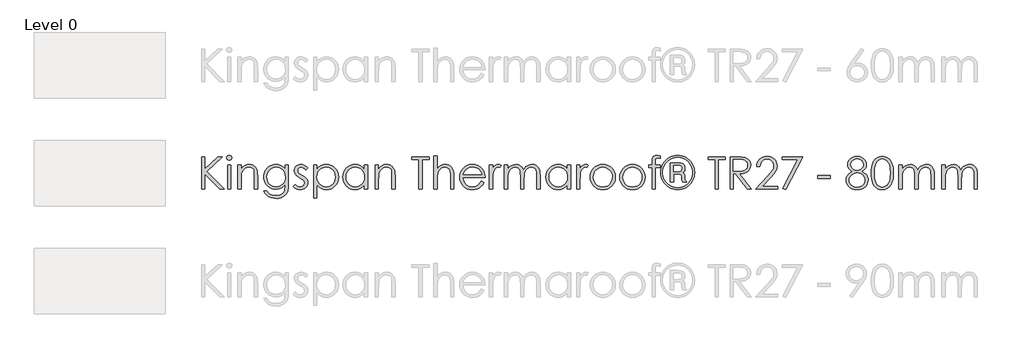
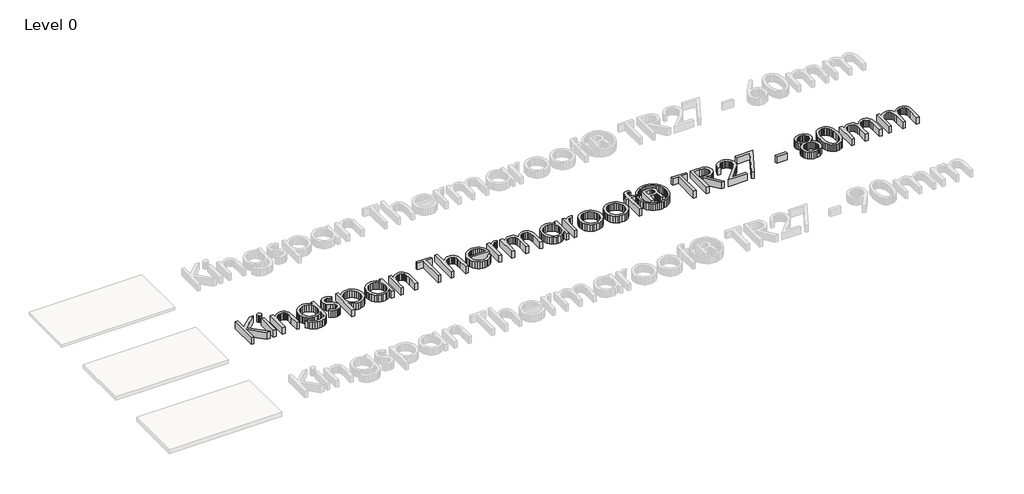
# One storey, part 9 of 12: 1 proxy.
"""IFC4 building model written with IfcOpenShell, lengths in millimetres."""

from ifc_helpers import new_model, si_unit, origin, origin_with_axes, place, context, project, spatial, polyline, outline, extrude, element, save

model = new_model("IFC4")

# Units and contexts
model_context = context("Model", 3, world=origin())
ifc_project = project(units=[si_unit("LENGTHUNIT", "METRE", prefix="MILLI")], contexts=[model_context])

# Site, building, storey
site = spatial("IfcSite", under=ifc_project)
building = spatial("IfcBuilding", under=site)
storey = spatial("IfcBuildingStorey", under=building, Name="Level 0", Elevation=0.0)

# Proxy
placement = place(None, origin())
element("IfcBuildingElementProxy", 1, Name="600mm KI_CenturyGothic", ObjectType="600mm KI_CenturyGothic", at=placement, inside=storey, context=model_context, shape_type="SweptSolid", body=[
    extrude(outline(polyline([(-3852.2663848, -39.1035917), (-3792.944575, -39.1035917), (-3792.944575, -258.3162171), (-3555.1938841, -39.1035917), (-3471.6181051, -39.1035917), (-3760.9664119, -306.0517359), (-3441.9572002, -632.32169), (-3520.8984627, -632.32169), (-3792.944575, -354.0962225), (-3792.944575, -632.32169), (-3852.2663848, -632.32169), (-3852.2663848, -39.1035917)])), origin_with_axes(), (0.0, 0.0, 1.0), 150.0),
    extrude(outline(polyline([(-3348.1854852, -9.4426868), (-3329.145347, -12.7254693), (-3313.1176445, -22.5738166), (-3302.226531, -37.0180594), (-3298.5961598, -54.0885281), (-3302.226531, -70.927271), (-3313.1176445, -85.2942718), (-3329.145347, -95.1426191), (-3348.1854852, -98.4254016), (-3366.9938975, -95.1426191), (-3382.9443581, -85.2942718), (-3393.8354717, -70.927271), (-3397.4658428, -54.0885281), (-3393.8354717, -37.0180594), (-3382.9443581, -22.5738166), (-3366.9938975, -12.7254693), (-3348.1854852, -9.4426868)])), origin_with_axes(), (0.0, 0.0, 1.0), 150.0),
    extrude(outline(polyline([(-3377.6919062, -187.4081163), (-3318.3700964, -187.4081163), (-3318.3700964, -632.32169), (-3377.6919062, -632.32169), (-3377.6919062, -187.4081163)])), origin_with_axes(), (0.0, 0.0, 1.0), 150.0),
    extrude(outline(polyline([(-3189.8395084, -187.4081163), (-3130.5176986, -187.4081163), (-3130.5176986, -266.5038627), (-3096.9946967, -226.9946105), (-3060.0730495, -199.303375), (-3019.7141359, -182.9667048), (-2975.879335, -177.521148), (-2953.4357238, -179.0997801), (-2932.2955704, -183.8356766), (-2912.4588747, -191.7288373), (-2893.9256368, -202.7792623), (-2877.212412, -216.5041895), (-2862.835756, -232.4208568), (-2841.0921499, -270.8294114), (-2833.6238199, -295.2088986), (-2828.2892984, -325.5553258), (-2824.0216812, -404.1489996), (-2824.0216812, -632.32169), (-2883.343491, -632.32169), (-2883.343491, -419.1339359), (-2883.343491, -316.0931881), (-2884.7290183, -295.2957958), (-2889.8125035, -277.2404924), (-2898.2849788, -261.9272778), (-2910.1464442, -249.3561521), (-2924.7403432, -239.556081), (-2941.4101193, -232.5560302), (-2980.977303, -226.9559895), (-3005.3471351, -229.1139362), (-3028.4038541, -235.5877763), (-3050.1474602, -246.3775098), (-3070.5779533, -261.4831366), (-3088.6622225, -279.7653383), (-3103.3671568, -300.0847961), (-3114.6927562, -322.4415101), (-3122.6390208, -346.8354802), (-3128.5480292, -393.9144426), (-3130.5176986, -468.4142936), (-3130.5176986, -632.32169), (-3189.8395084, -632.32169), (-3189.8395084, -187.4081163)])), origin_with_axes(), (0.0, 0.0, 1.0), 150.0),
    extrude(outline(polyline([(-2319.7862977, -187.4081163), (-2260.4644879, -187.4081163), (-2260.4644879, -538.3954911), (-2264.5196897, -618.6498666), (-2269.588692, -649.4500901), (-2276.6852953, -674.0323375), (-2289.9371156, -702.6456486), (-2307.2924139, -727.7734172), (-2328.7511904, -749.4156432), (-2354.3134448, -767.5723267), (-2383.3226209, -781.9344999), (-2415.122162, -792.193195), (-2449.7120682, -798.3484121), (-2487.0923395, -800.4001511), (-2541.0458345, -796.3835703), (-2589.206184, -784.3338276), (-2630.260275, -765.5061048), (-2662.8949946, -741.1555833), (-2690.2000204, -707.8063757), (-2715.2650299, -661.9825949), (-2655.94322, -661.9825949), (-2642.4355358, -683.151714), (-2627.0933555, -701.3952947), (-2609.9166791, -716.7133369), (-2590.9055067, -729.1058406), (-2569.7894914, -738.6693583), (-2546.2982864, -745.5004424), (-2492.1903075, -750.9653096), (-2438.5071593, -745.6356158), (-2415.083541, -738.9734985), (-2393.93856, -729.6465342), (-2359.6624492, -705.6049804), (-2336.8567664, -676.1178699), (-2329.3884364, -657.4784243), (-2324.0539149, -633.7699763), (-2319.7862977, -571.1460736), (-2319.7862977, -548.4369433), (-2354.757586, -584.2192719), (-2396.6420279, -610.6167049), (-2443.392712, -626.8954437), (-2492.9627269, -632.32169), (-2522.4063889, -630.4244348), (-2550.9521133, -624.7326694), (-2578.5999001, -615.2463936), (-2605.3497494, -601.9656076), (-2630.1540674, -585.4744534), (-2651.9652601, -566.3570733), (-2670.7833277, -544.6134672), (-2686.6082702, -520.2436352), (-2699.1456025, -493.9282718), (-2708.1008399, -466.3480717), (-2713.4739824, -437.5030347), (-2715.2650299, -407.3931611), (-2713.3967404, -377.1046654), (-2707.7918722, -347.8782464), (-2698.4504251, -319.7139041), (-2685.3723991, -292.6116384), (-2668.9971079, -267.4259384), (-2649.7638648, -245.011293), (-2627.67267, -225.3677021), (-2602.7235235, -208.4951659), (-2575.9833294, -194.9440331), (-2548.5189922, -185.2646525), (-2520.3305117, -179.4570241), (-2491.4178881, -177.521148), (-2444.5320306, -182.4646321), (-2400.8903346, -197.2950846), (-2359.6045177, -223.8663119), (-2319.7862977, -264.0321207), (-2319.7862977, -187.4081163)]), holes=[polyline([(-2484.1571458, -226.9559895), (-2529.0154023, -232.9808608), (-2570.5908765, -251.0554748), (-2606.2187212, -279.7701659), (-2633.2340897, -317.7152689), (-2650.2659375, -361.9942109), (-2655.94322, -409.7104193), (-2653.0080263, -445.6230937), (-2644.2024452, -478.2819514), (-2629.5264766, -507.6869924), (-2608.9801206, -533.8382166), (-2583.7606272, -555.2969931), (-2555.0652466, -570.6246905), (-2522.8939786, -579.821309), (-2487.2468234, -582.8868485), (-2451.3244937, -579.8454471), (-2419.1001219, -570.7212429), (-2390.573708, -555.514236), (-2365.7452519, -534.2244263), (-2345.6382095, -507.9814773), (-2331.2760363, -477.9150522), (-2322.6587323, -444.025151), (-2319.7862977, -406.3117739), (-2325.0773706, -357.6107308), (-2340.9505892, -314.3938655), (-2366.4983608, -278.1673956), (-2400.8130926, -250.4375392), (-2440.9982119, -232.8263769), (-2484.1571458, -226.9559895)])]), origin_with_axes(), (0.0, 0.0, 1.0), 150.0),
    extrude(outline(polyline([(-1904.5336289, -238.6967644), (-1940.9918246, -276.390831), (-1962.9575012, -254.7630879), (-1984.6721416, -239.3146999), (-2006.1357456, -230.0456671), (-2027.3483133, -226.9559895), (-2052.181597, -231.6291269), (-2073.2300256, -245.648539), (-2087.5970264, -265.8859272), (-2092.3860267, -289.2129931), (-2088.4466878, -310.7634943), (-2076.628671, -331.2326083), (-2052.0657341, -353.4010451), (-2010.2006027, -379.1226111), (-1958.3326401, -411.9890565), (-1939.8428507, -427.8139989), (-1926.315856, -443.2334212), (-1909.9791857, -475.9067617), (-1904.5336289, -512.4421993), (-1906.9474396, -538.5885959), (-1914.1888714, -562.6494602), (-1926.2579245, -584.6247921), (-1943.1545989, -604.5145916), (-1963.6719892, -621.0057458), (-1986.6031901, -632.7851416), (-2011.9482016, -639.8527791), (-2039.7070237, -642.2086583), (-2077.4397114, -638.3272508), (-2113.3958344, -626.6830284), (-2145.4512394, -608.2028942), (-2171.4817731, -583.8137517), (-2135.7959969, -543.3389752), (-2114.0041146, -564.9667184), (-2091.5749863, -580.4151064), (-2068.5086121, -589.6841392), (-2044.8049918, -592.7738168), (-2013.637869, -587.1351551), (-1987.4914724, -570.2191703), (-1969.7644472, -545.6562334), (-1963.8554388, -517.0767157), (-1967.7561567, -493.2861982), (-1979.4583106, -472.2763906), (-2005.0253927, -450.5714054), (-2050.2119275, -423.7684523), (-2099.762632, -393.1034022), (-2117.441381, -377.9446715), (-2130.3890611, -362.9018037), (-2146.3781427, -330.7691567), (-2151.7078365, -294.3109611), (-2149.5305794, -270.2645797), (-2142.9988078, -248.3326964), (-2132.1125219, -228.5153112), (-2116.8717217, -210.8124241), (-2098.309518, -196.2474908), (-2077.4590218, -185.843967), (-2054.3202332, -179.6018527), (-2028.8931521, -177.521148), (-1997.9481, -181.344624), (-1966.9064954, -192.8150521), (-1935.7683384, -211.9324322), (-1904.5336289, -238.6967644)])), origin_with_axes(), (0.0, 0.0, 1.0), 150.0),
    extrude(outline(polyline([(-1795.7769776, -187.4081163), (-1736.4551678, -187.4081163), (-1736.4551678, -268.5121532), (-1700.9238754, -228.2691025), (-1660.4490989, -199.9213106), (-1614.9922173, -183.1211886), (-1564.5146096, -177.521148), (-1520.0618732, -181.7597994), (-1478.9305402, -194.4757538), (-1441.1206107, -215.669011), (-1406.6320845, -245.3395712), (-1377.9077381, -280.9770712), (-1357.3903478, -320.071148), (-1345.0799137, -362.6218017), (-1340.9764356, -408.6290321), (-1345.0412927, -455.5293725), (-1357.235864, -498.7510654), (-1377.5601494, -538.294111), (-1406.014149, -574.1585092), (-1440.2130179, -603.9304494), (-1477.7719111, -625.196121), (-1518.6908288, -637.955524), (-1562.9697708, -642.2086583), (-1612.6170277, -636.743791), (-1658.0545988, -620.3491893), (-1699.3211052, -593.102095), (-1736.4551678, -555.0797501), (-1736.4551678, -790.5131828), (-1795.7769776, -790.5131828), (-1795.7769776, -187.4081163)]), holes=[polyline([(-1568.5311905, -226.9559895), (-1602.5852307, -230.2532548), (-1633.8392507, -240.1450507), (-1662.2932503, -256.6313773), (-1687.9472295, -279.7122344), (-1709.1694525, -307.6979548), (-1724.3281832, -338.8988709), (-1733.4234216, -373.3149827), (-1736.4551678, -410.9462903), (-1731.048232, -459.8018173), (-1714.8274246, -503.4821343), (-1688.5265441, -540.3265396), (-1652.8793888, -568.6743315), (-1611.4390881, -586.7489454), (-1567.7587711, -592.7738168), (-1525.0632888, -586.7103245), (-1485.0326535, -568.5198476), (-1450.2544701, -539.4189468), (-1423.3163435, -500.6241825), (-1406.05277, -455.9590308), (-1400.2982454, -409.2469676), (-1405.9948385, -362.3031787), (-1423.0846177, -317.8697527), (-1449.8103289, -279.5191296), (-1484.414718, -250.8237489), (-1524.7157001, -232.9229294), (-1568.5311905, -226.9559895)])]), origin_with_axes(), (0.0, 0.0, 1.0), 150.0),
    extrude(outline(polyline([(-807.0801472, -187.4081163), (-807.0801472, -632.32169), (-866.401957, -632.32169), (-866.401957, -556.470105), (-903.4780882, -594.3186556), (-944.8797679, -621.0443668), (-990.4525125, -636.9175854), (-1040.0418379, -642.2086583), (-1084.3159523, -637.955524), (-1125.2203871, -625.196121), (-1162.7551422, -603.9304494), (-1196.9202178, -574.1585092), (-1225.340424, -538.294111), (-1245.6405713, -498.7510654), (-1257.8206597, -455.5293725), (-1261.8806892, -408.6290321), (-1257.7820388, -362.6218017), (-1245.4860875, -320.071148), (-1224.9928353, -280.9770712), (-1196.3022822, -245.3395712), (-1161.8475494, -215.669011), (-1124.061758, -194.4757538), (-1082.9449079, -181.7597994), (-1038.4969991, -177.521148), (-987.7490446, -183.1211886), (-942.0990581, -199.9213106), (-921.2051134, -212.6082992), (-901.6242816, -228.2691025), (-866.401957, -268.5121532), (-866.401957, -187.4081163), (-807.0801472, -187.4081163)]), holes=[polyline([(-1034.3259343, -226.9559895), (-1078.1414247, -232.9229294), (-1118.4424068, -250.8237489), (-1153.0467959, -279.5191296), (-1179.7725071, -317.8697527), (-1196.8622863, -362.3031787), (-1202.5588794, -409.2469676), (-1196.8043548, -455.9590308), (-1179.5407813, -500.6241825), (-1152.6026548, -539.4189468), (-1117.8244713, -568.5198476), (-1077.6779731, -586.7103245), (-1034.6349021, -592.7738168), (-991.0125165, -586.7489454), (-949.7460102, -568.6743315), (-914.2726493, -540.3265396), (-888.0297002, -503.4821343), (-871.8088928, -459.8018173), (-866.401957, -410.9462903), (-869.4337032, -373.3149827), (-878.5289416, -338.8988709), (-893.6876723, -307.6979548), (-914.9098953, -279.7122344), (-940.5638746, -256.6313773), (-969.0178742, -240.1450507), (-1000.2718941, -230.2532548), (-1034.3259343, -226.9559895)])]), origin_with_axes(), (0.0, 0.0, 1.0), 150.0),
    extrude(outline(polyline([(-668.662591, -187.4081163), (-609.3407811, -187.4081163), (-609.3407811, -266.5038627), (-575.8177792, -226.9946105), (-538.896132, -199.303375), (-498.5372184, -182.9667048), (-454.7024175, -177.521148), (-432.2588064, -179.0997801), (-411.1186529, -183.8356766), (-391.2819572, -191.7288373), (-372.7487193, -202.7792623), (-356.0354946, -216.5041895), (-341.6588385, -232.4208568), (-319.9152324, -270.8294114), (-312.4469024, -295.2088986), (-307.1123809, -325.5553258), (-302.8447637, -404.1489996), (-302.8447637, -632.32169), (-362.1665735, -632.32169), (-362.1665735, -419.1339359), (-362.1665735, -316.0931881), (-363.5521008, -295.2957958), (-368.635586, -277.2404924), (-377.1080613, -261.9272778), (-388.9695267, -249.3561521), (-403.5634257, -239.556081), (-420.2332018, -232.5560302), (-459.8003855, -226.9559895), (-484.1702176, -229.1139362), (-507.2269366, -235.5877763), (-528.9705427, -246.3775098), (-549.4010358, -261.4831366), (-567.485305, -279.7653383), (-582.1902393, -300.0847961), (-593.5158387, -322.4415101), (-601.4621033, -346.8354802), (-607.3711117, -393.9144426), (-609.3407811, -468.4142936), (-609.3407811, -632.32169), (-668.662591, -632.32169), (-668.662591, -187.4081163)])), origin_with_axes(), (0.0, 0.0, 1.0), 150.0),
    extrude(outline(polyline([(3.6512537, -88.5384333), (3.6512537, -39.1035917), (320.0342394, -39.1035917), (320.0342394, -88.5384333), (191.5036515, -88.5384333), (191.5036515, -632.32169), (132.1818417, -632.32169), (132.1818417, -88.5384333), (3.6512537, -88.5384333)])), origin_with_axes(), (0.0, 0.0, 1.0), 150.0),
    extrude(outline(polyline([(409.0169542, -19.3296551), (468.338764, -19.3296551), (468.338764, -268.0487015), (502.1128022, -228.3463444), (539.1696229, -200.0757944), (579.470605, -183.1598096), (622.9771276, -177.521148), (645.4207388, -179.0997801), (666.5608922, -183.8356766), (686.3975879, -191.7288373), (704.9308258, -202.7792623), (721.6440506, -216.4897067), (736.0207066, -232.3629253), (757.7643127, -270.5976855), (765.2326428, -294.9047585), (770.5671642, -325.2656685), (774.8347814, -404.1489996), (774.8347814, -632.32169), (715.5129716, -632.32169), (715.5129716, -419.1339359), (714.1226167, -354.752779), (709.9515519, -316.0931881), (696.4342124, -277.2404924), (686.7210385, -261.9272778), (675.0381951, -249.3561521), (661.3953375, -239.556081), (645.8021209, -232.5560302), (608.7646107, -226.9559895), (585.8961689, -229.1139362), (564.2539428, -235.5877763), (543.8379326, -246.3775098), (524.6481382, -261.4831366), (507.659739, -279.7653383), (493.8479146, -300.0847961), (483.212665, -322.4415101), (475.7539902, -346.8354802), (470.1925705, -393.6827167), (468.338764, -468.4142936), (468.338764, -632.32169), (409.0169542, -632.32169), (409.0169542, -19.3296551)])), origin_with_axes(), (0.0, 0.0, 1.0), 150.0),
    extrude(outline(polyline([(1280.6150037, -484.0171654), (1328.5050064, -509.1980378), (1302.8799929, -551.0824797), (1273.5859872, -584.0454776), (1240.5071264, -609.1297975), (1203.5275477, -627.3782058), (1162.048626, -638.5010452), (1115.4717363, -642.2086583), (1063.9803281, -637.776902), (1018.4172388, -624.4816331), (978.7824684, -602.3228516), (945.0760169, -571.3005575), (918.1765113, -534.6975332), (898.9625788, -495.7965612), (887.4342193, -454.5976416), (883.5914328, -411.1007742), (886.8742152, -370.2204775), (896.7225625, -331.618818), (913.1364748, -295.2957958), (936.1159519, -261.2514108), (972.3038007, -224.6194208), (1014.1303111, -198.4537137), (1061.5954832, -182.7542894), (1114.6993169, -177.521148), (1169.3479893, -182.8894628), (1218.2035163, -198.9944073), (1261.2658978, -225.8359814), (1298.5351338, -263.4141851), (1320.008393, -295.5854531), (1335.456781, -331.5415761), (1344.8802977, -371.2825542), (1348.278943, -414.8083873), (942.9132426, -414.8083873), (946.6498214, -452.0631404), (956.1602353, -485.8130405), (971.4444841, -516.0580876), (992.502568, -542.7982817), (1017.86689, -564.6625783), (1046.0698533, -580.279933), (1077.1114579, -589.6503458), (1110.9917037, -592.7738168), (1144.5147056, -589.7613811), (1177.1108043, -580.7240741), (1206.8489511, -566.6853516), (1231.7980977, -548.6686691), (1255.2796474, -522.502962), (1280.6150037, -484.0171654)]), holes=[polyline([(1288.9571332, -365.3735458), (1274.5322009, -322.8518579), (1254.7389538, -289.8309286), (1228.6311782, -264.3024674), (1195.2626601, -244.258184), (1157.3175572, -231.2815381), (1117.4800267, -226.9559895), (1085.0577224, -229.6691127), (1054.9912973, -237.8084821), (1027.2807514, -251.3740978), (1001.9260846, -270.3659597), (985.3866543, -288.1798821), (970.9906877, -309.9524539), (958.738185, -335.6836751), (948.6291461, -365.3735458), (1288.9571332, -365.3735458)])]), origin_with_axes(), (0.0, 0.0, 1.0), 150.0),
    extrude(outline(polyline([(1427.3746895, -187.4081163), (1486.6964993, -187.4081163), (1486.6964993, -251.8278942), (1512.2442709, -218.7876544), (1539.1437765, -195.6730039), (1567.317774, -182.059112), (1596.6890217, -177.521148), (1620.0160875, -181.306003), (1644.8879922, -192.6605682), (1615.3815711, -234.6801835), (1586.8020534, -226.9559895), (1560.3853099, -232.9036189), (1534.8954698, -250.746507), (1512.8428959, -281.1025894), (1496.7379515, -324.5898015), (1489.2068623, -382.7143613), (1486.6964993, -480.1550684), (1486.6964993, -632.32169), (1427.3746895, -632.32169), (1427.3746895, -187.4081163)])), origin_with_axes(), (0.0, 0.0, 1.0), 150.0),
    extrude(outline(polyline([(1704.209802, -187.4081163), (1763.5316118, -187.4081163), (1763.5316118, -263.568669), (1793.1152748, -227.0718524), (1823.4713571, -201.929601), (1866.8813274, -183.6232612), (1912.4540719, -177.521148), (1943.2929164, -180.668757), (1972.4710592, -190.1115842), (1998.2312461, -204.7875528), (2018.8162231, -223.6345861), (2035.5970345, -249.0664948), (2049.9447249, -283.4970895), (2064.7220735, -259.0982917), (2081.247021, -237.8084821), (2099.5195674, -219.6276605), (2119.5397127, -204.5558269), (2140.83435, -192.7281549), (2162.9303724, -184.2798177), (2185.82778, -179.2108154), (2209.5265726, -177.521148), (2251.8551557, -183.333604), (2271.0497777, -190.5991739), (2288.9312868, -200.7709719), (2305.0458865, -213.5400301), (2318.9397805, -228.5973807), (2340.065451, -265.5769595), (2347.3648143, -288.9523015), (2352.5786453, -317.522164), (2356.74971, -390.2454504), (2356.74971, -632.32169), (2297.4279002, -632.32169), (2297.4279002, -386.6923212), (2294.9754686, -325.5746362), (2287.6181738, -287.1274607), (2274.3132497, -262.6610762), (2254.01793, -243.4857646), (2227.9487753, -231.0884333), (2197.3223461, -226.9559895), (2177.6739277, -228.5056559), (2158.894481, -233.1546552), (2123.9425033, -251.7506522), (2095.2085016, -280.6970692), (2075.434565, -317.9469947), (2068.743482, -342.1044114), (2063.9641369, -373.1749817), (2060.1406609, -456.0555832), (2060.1406609, -632.32169), (2000.8188511, -632.32169), (2000.8188511, -401.9862253), (1998.4050405, -333.5305561), (1991.1636086, -291.2985254), (1977.9166159, -265.0555764), (1957.4861228, -244.5671518), (1931.1659318, -231.3587801), (1900.2498454, -226.9559895), (1863.3088876, -233.0001713), (1828.801051, -251.1327167), (1799.8353235, -279.4998191), (1779.5206934, -316.247672), (1767.5288822, -368.0770137), (1763.5316118, -441.6885824), (1763.5316118, -632.32169), (1704.209802, -632.32169), (1704.209802, -187.4081163)])), origin_with_axes(), (0.0, 0.0, 1.0), 150.0),
    extrude(outline(polyline([(2920.3069034, -187.4081163), (2920.3069034, -632.32169), (2860.9850935, -632.32169), (2860.9850935, -556.470105), (2823.9089624, -594.3186556), (2782.5072826, -621.0443668), (2736.9345381, -636.9175854), (2687.3452127, -642.2086583), (2643.0710983, -637.955524), (2602.1666635, -625.196121), (2564.6319083, -603.9304494), (2530.4668328, -574.1585092), (2502.0466266, -538.294111), (2481.7464792, -498.7510654), (2469.5663908, -455.5293725), (2465.5063614, -408.6290321), (2469.6050118, -362.6218017), (2481.9009631, -320.071148), (2502.3942153, -280.9770712), (2531.0847683, -245.3395712), (2565.5395011, -215.669011), (2603.3252926, -194.4757538), (2644.4421427, -181.7597994), (2688.8900515, -177.521148), (2739.638006, -183.1211886), (2785.2879925, -199.9213106), (2806.1819372, -212.6082992), (2825.7627689, -228.2691025), (2860.9850935, -268.5121532), (2860.9850935, -187.4081163), (2920.3069034, -187.4081163)]), holes=[polyline([(2693.0611162, -226.9559895), (2649.2456259, -232.9229294), (2608.9446437, -250.8237489), (2574.3402547, -279.5191296), (2547.6145435, -317.8697527), (2530.5247643, -362.3031787), (2524.8281712, -409.2469676), (2530.5826957, -455.9590308), (2547.8462693, -500.6241825), (2574.7843958, -539.4189468), (2609.5625792, -568.5198476), (2649.7090775, -586.7103245), (2692.7521485, -592.7738168), (2736.374534, -586.7489454), (2777.6410404, -568.6743315), (2813.1144013, -540.3265396), (2839.3573504, -503.4821343), (2855.5781577, -459.8018173), (2860.9850935, -410.9462903), (2857.9533474, -373.3149827), (2848.858109, -338.8988709), (2833.6993783, -307.6979548), (2812.4771553, -279.7122344), (2786.823176, -256.6313773), (2758.3691764, -240.1450507), (2727.1151565, -230.2532548), (2693.0611162, -226.9559895)])]), origin_with_axes(), (0.0, 0.0, 1.0), 150.0),
    extrude(outline(polyline([(3029.0635547, -187.4081163), (3088.3853645, -187.4081163), (3088.3853645, -251.8278942), (3113.9331361, -218.7876544), (3140.8326417, -195.6730039), (3169.0066393, -182.059112), (3198.3778869, -177.521148), (3221.7049527, -181.306003), (3246.5768574, -192.6605682), (3217.0704364, -234.6801835), (3188.4909186, -226.9559895), (3162.0741752, -232.9036189), (3136.584335, -250.746507), (3114.5317612, -281.1025894), (3098.4268167, -324.5898015), (3090.8957276, -382.7143613), (3088.3853645, -480.1550684), (3088.3853645, -632.32169), (3029.0635547, -632.32169), (3029.0635547, -187.4081163)])), origin_with_axes(), (0.0, 0.0, 1.0), 150.0),
    extrude(outline(polyline([(3508.7360013, -177.521148), (3558.0453247, -182.1460091), (3602.932547, -196.0205926), (3643.3976682, -219.1448983), (3679.4406884, -251.5189264), (3706.340194, -286.7509062), (3725.5541265, -325.0918741), (3737.0824861, -366.5418301), (3740.9252726, -411.1007742), (3736.8604155, -455.9155822), (3724.6658442, -497.8241622), (3704.3415588, -536.8265142), (3675.8875592, -572.9226382), (3641.0514443, -603.235272), (3601.580813, -624.8871533), (3557.4756654, -637.878282), (3508.7360013, -642.2086583), (3459.8611639, -637.878282), (3415.6594638, -624.8871533), (3376.130901, -603.235272), (3341.2754757, -572.9226382), (3312.8214761, -536.8265142), (3292.4971906, -497.8241622), (3280.3026194, -455.9155822), (3276.2377623, -411.1007742), (3280.0805488, -366.734935), (3291.6089083, -325.4008419), (3310.8228409, -287.0984949), (3337.7223464, -251.8278942), (3373.7846771, -219.3186927), (3414.3077298, -196.0978345), (3459.2915046, -182.1653196), (3508.7360013, -177.521148)]), holes=[polyline([(3508.5815174, -226.9559895), (3474.3054066, -230.3304968), (3442.5396588, -240.4540185), (3413.2842741, -257.3265547), (3386.5392524, -280.9481055), (3364.2356423, -309.3586565), (3348.3044922, -340.5981936), (3338.7458021, -374.6667167), (3335.5595721, -411.5642258), (3341.3720281, -459.2997447), (3358.809396, -503.6366181), (3386.1530427, -541.4272372), (3421.6843351, -569.5239929), (3463.2211882, -586.9613608), (3508.5815174, -592.7738168), (3553.9418466, -586.9613608), (3595.4786998, -569.5239929), (3631.0099921, -541.4272372), (3658.3536389, -503.6366181), (3675.7910068, -459.2997447), (3681.6034628, -411.5642258), (3678.4027499, -374.6667167), (3668.8006112, -340.5981936), (3652.7970468, -309.3586565), (3630.3920566, -280.9481055), (3603.5746206, -257.3265547), (3574.3337188, -240.4540185), (3542.669351, -230.3304968), (3508.5815174, -226.9559895)])]), origin_with_axes(), (0.0, 0.0, 1.0), 150.0),
    extrude(outline(polyline([(4052.519258, -177.521148), (4101.8285814, -182.1460091), (4146.7158037, -196.0205926), (4187.180925, -219.1448983), (4223.2239452, -251.5189264), (4250.1234507, -286.7509062), (4269.3373833, -325.0918741), (4280.8657428, -366.5418301), (4284.7085293, -411.1007742), (4280.6436722, -455.9155822), (4268.4491009, -497.8241622), (4248.1248155, -536.8265142), (4219.6708159, -572.9226382), (4184.834701, -603.235272), (4145.3640698, -624.8871533), (4101.2589221, -637.878282), (4052.519258, -642.2086583), (4003.6444206, -637.878282), (3959.4427205, -624.8871533), (3919.9141578, -603.235272), (3885.0587324, -572.9226382), (3856.6047328, -536.8265142), (3836.2804474, -497.8241622), (3824.0858761, -455.9155822), (3820.021019, -411.1007742), (3823.8638055, -366.734935), (3835.392165, -325.4008419), (3854.6060976, -287.0984949), (3881.5056031, -251.8278942), (3917.5679338, -219.3186927), (3958.0909865, -196.0978345), (4003.0747613, -182.1653196), (4052.519258, -177.521148)]), holes=[polyline([(4052.3647741, -226.9559895), (4018.0886633, -230.3304968), (3986.3229156, -240.4540185), (3957.0675308, -257.3265547), (3930.3225091, -280.9481055), (3908.018899, -309.3586565), (3892.0877489, -340.5981936), (3882.5290589, -374.6667167), (3879.3428288, -411.5642258), (3885.1552848, -459.2997447), (3902.5926527, -503.6366181), (3929.9362994, -541.4272372), (3965.4675918, -569.5239929), (4007.004445, -586.9613608), (4052.3647741, -592.7738168), (4097.7251033, -586.9613608), (4139.2619565, -569.5239929), (4174.7932489, -541.4272372), (4202.1368956, -503.6366181), (4219.5742635, -459.2997447), (4225.3867195, -411.5642258), (4222.1860066, -374.6667167), (4212.5838679, -340.5981936), (4196.5803035, -309.3586565), (4174.1753133, -280.9481055), (4147.3578773, -257.3265547), (4118.1169755, -240.4540185), (4086.4526077, -230.3304968), (4052.3647741, -226.9559895)])]), origin_with_axes(), (0.0, 0.0, 1.0), 150.0),
    extrude(outline(polyline([(4561.5436418, -20.72001), (4561.5436418, -72.3176259), (4535.2813822, -62.2375527), (4513.0357036, -58.8775283), (4499.3059487, -60.5575405), (4488.086557, -65.5975771), (4479.9761533, -72.8196985), (4475.5733627, -81.0459651), (4473.0243787, -127.6228548), (4473.0243787, -187.4081163), (4561.5436418, -187.4081163), (4561.5436418, -236.8429578), (4472.8698948, -236.8429578), (4472.8698948, -632.32169), (4413.2391172, -632.32169), (4413.2391172, -236.8429578), (4353.9173074, -236.8429578), (4353.9173074, -187.4081163), (4413.2391172, -187.4081163), (4413.2391172, -119.8986608), (4415.3246496, -80.0611304), (4421.5812467, -53.5478345), (4432.8392595, -35.6277044), (4449.9290387, -21.5696714), (4472.000923, -12.474433), (4498.2052511, -9.4426868), (4527.2482205, -12.2620176), (4561.5436418, -20.72001)])), origin_with_axes(), (0.0, 0.0, 1.0), 150.0),
    extrude(outline(polyline([(5194.3096132, -325.207737), (5191.7075254, -367.1501104), (5183.9012619, -407.5476449), (5170.8908226, -446.4003407), (5152.6762077, -483.7081977), (5129.9284564, -518.3463801), (5103.3186081, -549.1900522), (5072.8466628, -576.239214), (5038.5126205, -599.4938655), (5001.5958009, -618.1815874), (4963.3755235, -631.5299601), (4923.8517884, -639.5389837), (4883.0245956, -642.2086583), (4842.2649894, -639.5534666), (4802.7895305, -631.5878915), (4764.5982189, -618.3119331), (4727.6910545, -599.7255913), (4693.3425293, -576.557837), (4662.8271355, -549.5376409), (4636.1448729, -518.6650031), (4613.2957415, -483.9399235), (4594.9797465, -446.6368941), (4581.896893, -408.0304071), (4574.0471808, -368.1204623), (4571.4306101, -326.9070597), (4574.0471808, -285.2398608), (4581.896893, -244.89543), (4594.9797465, -205.8737675), (4613.2957415, -168.1748733), (4636.13039, -133.1215154), (4662.769204, -102.0364623), (4693.2121836, -74.9197137), (4727.4593286, -51.7712699), (4764.2940787, -33.2525148), (4802.4998732, -20.0248326), (4842.0767122, -12.0882233), (4883.0245956, -9.4426868), (4923.9531684, -12.0737404), (4963.4720759, -19.9669011), (5001.581318, -33.122169), (5038.2808947, -51.5395441), (5072.4025216, -74.5866079), (5102.7779145, -101.6309421), (5129.4070733, -132.6725467), (5152.289998, -167.7114216), (5170.6735796, -205.333074), (5183.8047094, -244.1230107), (5191.6833873, -284.0812317), (5194.3096132, -325.207737)]), holes=[polyline([(5154.76174, -325.8256726), (5152.4782752, -289.6812723), (5145.6278806, -254.6279145), (5134.2105564, -220.665599), (5118.2263025, -187.794326), (5098.3220201, -157.1920349), (5075.1446105, -130.0366655), (5048.6940737, -106.3282175), (5018.9704097, -86.0666912), (4987.0115571, -69.8458838), (4953.8554544, -58.2595928), (4919.5021017, -51.3078182), (4883.9514988, -48.99056), (4848.1353768, -51.3078182), (4813.4489182, -58.2595928), (4779.892123, -69.8458838), (4747.4649911, -86.0666912), (4717.3116688, -106.3282175), (4690.5763024, -130.0366655), (4667.2588918, -157.1920349), (4647.359437, -187.794326), (4631.4427698, -220.7138752), (4620.0737217, -254.8210193), (4613.2522929, -290.1157582), (4610.9784833, -326.598092), (4613.2522929, -362.9066313), (4620.0737217, -397.9889549), (4631.4427698, -431.8450627), (4647.359437, -464.4749546), (4667.268547, -494.8068989), (4690.6149233, -521.7691635), (4717.398566, -545.3617485), (4747.619475, -565.5846539), (4780.0948831, -581.8054613), (4813.6420231, -593.3917523), (4848.260895, -600.3435269), (4883.9514988, -602.6607851), (4919.3234797, -600.329044), (4953.6044181, -593.3338208), (4986.7943142, -581.6751155), (5018.8931678, -565.3529281), (5048.7761433, -545.0431255), (5075.3184049, -521.4215748), (5098.5199526, -494.4882759), (5118.3807864, -464.2432288), (5134.2974536, -431.6664407), (5145.6665016, -397.7379186), (5152.4879304, -362.4576625), (5154.76174, -325.8256726)])]), origin_with_axes(), (0.0, 0.0, 1.0), 150.0),
    extrude(outline(polyline([(4749.3960396, -147.8602431), (4893.5294994, -147.8602431), (4936.9587801, -150.4671586), (4966.2141648, -158.287905), (4986.3356901, -172.0176598), (5002.3633927, -192.3516004), (5012.848986, -217.9573035), (5016.3441838, -247.5023455), (5014.722103, -272.7990808), (5009.8558608, -294.3109611), (4997.0336988, -309.5662442), (4974.6335362, -326.2891242), (4995.2957552, -338.9761128), (5007.8475704, -353.555529), (5014.2200304, -374.661889), (5016.3441838, -406.9297094), (5016.3441838, -447.0955182), (5021.4035308, -473.04881), (5036.581572, -494.3675854), (5046.0050887, -503.791102), (4976.7963106, -503.791102), (4967.7590036, -479.6529958), (4961.9658581, -451.4210668), (4957.022374, -407.8566127), (4954.4540795, -387.3295672), (4949.8388735, -373.9474011), (4942.9836514, -365.5087192), (4933.6953081, -359.8121261), (4918.0151943, -356.5679646), (4891.9846606, -355.4865775), (4808.7178494, -355.4865775), (4808.7178494, -503.791102), (4749.3960396, -503.791102), (4749.3960396, -147.8602431)]), holes=[polyline([(4808.7178494, -197.2950846), (4808.7178494, -306.0517359), (4888.5860152, -306.0517359), (4919.1738234, -303.7344777), (4938.0208567, -296.7827032), (4946.3340205, -288.89437), (4952.2719947, -278.6694683), (4957.022374, -251.2099586), (4953.6044181, -226.9946105), (4943.3505506, -210.2717305), (4923.6345454, -200.5392461), (4891.8301767, -197.2950846), (4808.7178494, -197.2950846)])]), origin_with_axes(), (0.0, 0.0, 1.0), 150.0),
    extrude(outline(polyline([(5441.4838208, -88.5384333), (5441.4838208, -39.1035917), (5757.8668066, -39.1035917), (5757.8668066, -88.5384333), (5629.3362186, -88.5384333), (5629.3362186, -632.32169), (5570.0144088, -632.32169), (5570.0144088, -88.5384333), (5441.4838208, -88.5384333)])), origin_with_axes(), (0.0, 0.0, 1.0), 150.0),
    extrude(outline(polyline([(5846.8495213, -39.1035917), (5966.5745281, -39.1035917), (6050.4206538, -41.0346402), (6102.0568906, -46.8277857), (6127.5370756, -54.3637025), (6150.5262079, -65.2306779), (6171.0242877, -79.428712), (6189.0313149, -96.9578047), (6203.6976283, -117.257952), (6214.1735664, -139.7691499), (6220.4591292, -164.4913983), (6222.5543169, -191.4246972), (6216.7804818, -235.2788085), (6209.5631881, -255.105849), (6199.4589768, -273.5328793), (6186.6754358, -290.1736897), (6171.4201527, -304.6420705), (6133.4943602, -327.0615436), (6110.0176381, -334.9981529), (6082.4567484, -340.7333669), (6015.0824664, -345.5996092), (6232.4412852, -632.32169), (6160.4517972, -632.32169), (5943.0929784, -345.5996092), (5906.1713311, -345.5996092), (5906.1713311, -632.32169), (5846.8495213, -632.32169), (5846.8495213, -39.1035917)]), holes=[polyline([(5906.1713311, -88.5384333), (5906.1713311, -296.1647676), (6011.0658855, -296.7827032), (6064.1310982, -293.8861304), (6101.2844713, -285.1964122), (6127.276384, -270.1149234), (6146.8572158, -248.0430391), (6159.1386842, -220.9890497), (6163.232507, -190.9612455), (6159.0807528, -161.7444818), (6146.62549, -135.2698069), (6127.4308679, -113.7386161), (6103.0610359, -99.3523048), (6067.2014653, -91.2419012), (6013.5376276, -88.5384333), (5906.1713311, -88.5384333)])]), origin_with_axes(), (0.0, 0.0, 1.0), 150.0),
    extrude(outline(polyline([(6390.632778, -217.0690212), (6331.3109682, -217.0690212), (6335.7958283, -177.8108053), (6346.9331505, -142.2215815), (6364.7229348, -110.3013498), (6389.1651812, -82.0501103), (6418.5605669, -58.9354598), (6451.2097694, -42.4249952), (6487.1127885, -32.5187164), (6526.2696244, -29.2166234), (6564.7409381, -32.5138887), (6599.35981, -42.4056847), (6630.1262402, -58.8920112), (6657.0402286, -81.9728684), (6678.9045253, -109.533758), (6694.52188, -139.4601821), (6703.8922928, -171.7521406), (6707.0157637, -206.4096335), (6700.932961, -255.207229), (6682.6845527, -300.876526), (6646.902224, -352.7637991), (6588.2176602, -420.2153231), (6435.4331031, -582.8868485), (6716.902732, -582.8868485), (6716.902732, -632.32169), (6311.5370316, -632.32169), (6537.5469477, -391.6358053), (6594.2811525, -326.1153298), (6626.993114, -280.0212022), (6642.5187439, -242.6554138), (6647.6939539, -203.3199559), (6645.4442824, -178.7135704), (6638.6952679, -155.8740943), (6627.4469104, -134.8015276), (6611.6992099, -115.4958703), (6592.6880375, -99.3764429), (6571.6492641, -87.8625663), (6548.5828898, -80.9542403), (6523.4889146, -78.651465), (6497.1542407, -80.9252746), (6473.1464803, -87.7467034), (6451.4656333, -99.1157514), (6432.1116997, -115.0324186), (6415.8764095, -135.0525639), (6403.5514925, -158.7320461), (6395.1369486, -186.0708652), (6390.632778, -217.0690212)])), origin_with_axes(), (0.0, 0.0, 1.0), 150.0),
    extrude(outline(polyline([(6805.8854468, -39.1035917), (7181.5902423, -39.1035917), (6865.2072566, -642.2086583), (6811.2923826, -619.8084957), (7089.9813016, -88.5384333), (6805.8854468, -88.5384333), (6805.8854468, -39.1035917)])), origin_with_axes(), (0.0, 0.0, 1.0), 150.0),
    extrude(outline(polyline([(7458.4253548, -385.1474824), (7685.8256258, -385.1474824), (7685.8256258, -434.5823239), (7458.4253548, -434.5823239), (7458.4253548, -385.1474824)])), origin_with_axes(), (0.0, 0.0, 1.0), 150.0),
    extrude(outline(polyline([(8263.1318844, -308.2145103), (8315.2315729, -339.6133588), (8335.0537857, -356.8479667), (8350.7242443, -375.1060302), (8362.619503, -394.5227228), (8371.1161164, -415.233218), (8376.2140844, -437.2375156), (8377.9134071, -460.5356157), (8375.0940763, -493.2186115), (8366.6360839, -523.9126274), (8352.5394299, -552.6176633), (8332.8041142, -579.3337192), (8302.1100984, -606.8415051), (8265.4877636, -626.4899235), (8222.93711, -638.2789746), (8174.4581375, -642.2086583), (8127.7943505, -638.7569091), (8087.1361244, -628.4016615), (8052.4834592, -611.1429156), (8023.8363547, -586.9806713), (8001.3975712, -558.6666727), (7985.3698687, -528.9526639), (7975.7532471, -497.838645), (7972.5477066, -465.324616), (7974.2615122, -441.5968576), (7979.4029288, -419.0760045), (7987.9719565, -397.7620567), (7999.9685953, -377.6550142), (8015.865952, -358.6872903), (8036.1371336, -340.7912984), (8060.7821401, -323.9670384), (8089.8009714, -308.2145103), (8051.4310377, -283.2653637), (8024.0680805, -252.9092813), (8007.6734788, -218.652481), (8002.2086116, -182.0011805), (8008.001757, -144.2878034), (8025.3811935, -107.4627085), (8052.995187, -74.9438518), (8089.4920036, -50.1491891), (8132.0909335, -34.4497649), (8178.0112667, -29.2166234), (8222.7536604, -34.4883858), (8263.9815458, -50.303673), (8299.1845599, -75.1755777), (8325.8523396, -107.6171924), (8342.6524615, -144.751255), (8348.2525022, -183.7005032), (8342.9421188, -221.240086), (8327.0109687, -254.4541201), (8300.4204309, -283.4198476), (8263.1318844, -308.2145103)]), holes=[polyline([(8175.076073, -78.651465), (8151.5703852, -80.5100991), (8130.1791954, -86.0860017), (8110.9025038, -95.3791726), (8093.7403103, -108.3896118), (8079.6484839, -123.9780008), (8069.5828936, -141.0050209), (8063.5435394, -159.4706722), (8061.5304214, -179.3749546), (8063.6980233, -199.2840646), (8070.2008291, -218.2276503), (8081.0388388, -236.2057118), (8096.2120524, -253.2182491), (8114.2721834, -267.6818023), (8133.7709456, -278.0129118), (8154.708339, -284.2115774), (8177.0843634, -286.2777993), (8205.7990546, -282.5315653), (8232.930286, -271.292863), (8256.3925252, -253.5465273), (8274.1002399, -230.2773929), (8285.2230793, -204.2275487), (8288.9306924, -178.1390835), (8287.1058515, -159.9679172), (8281.631329, -142.5305492), (8272.5071249, -125.8269797), (8259.7332391, -109.8572087), (8243.4931212, -96.2046958), (8223.9702209, -86.4529009), (8201.1645382, -80.6018239), (8175.076073, -78.651465)]), polyline([(8178.3202345, -335.7126409), (8148.4517418, -338.2230039), (8121.1032675, -345.754093), (8096.2748115, -358.3059083), (8073.9663737, -375.8784496), (8055.5489987, -396.7820496), (8042.3937308, -419.3270408), (8034.50057, -443.5134232), (8031.8695165, -469.3411968), (8036.3688595, -501.4545333), (8049.8668885, -531.6754423), (8071.4367002, -557.6094236), (8100.1513913, -576.8619771), (8135.0261272, -588.7958569), (8175.076073, -592.7738168), (8206.2962996, -590.3551785), (8234.1468465, -583.0992638), (8258.6277138, -571.0060726), (8279.7389015, -554.0756049), (8296.7369559, -533.910631), (8308.8784233, -512.113921), (8316.1633038, -488.6854752), (8318.5915973, -463.6252933), (8316.0233028, -439.2940822), (8308.3184193, -416.3532261), (8295.4769468, -394.8027249), (8277.4988853, -374.6425786), (8255.8904526, -357.6107308), (8232.1578666, -345.4451253), (8206.3011272, -338.145762), (8178.3202345, -335.7126409)])]), origin_with_axes(), (0.0, 0.0, 1.0), 150.0),
    extrude(outline(polyline([(8437.2352169, -335.8671247), (8438.8138491, -281.4356952), (8443.5497455, -233.5408649), (8451.4429062, -192.1826337), (8462.4933313, -157.3610017), (8476.4210185, -127.7194073), (8492.9459661, -101.9012889), (8512.0681738, -79.9066465), (8533.7876418, -61.7354801), (8557.4816068, -47.5084803), (8582.5273058, -37.3463376), (8608.9247388, -31.249052), (8636.6739057, -29.2166234), (8664.876869, -31.2635348), (8691.7087878, -37.4042691), (8717.1696623, -47.6388261), (8741.2594923, -61.9672059), (8763.4424119, -80.384581), (8783.1825551, -102.8861236), (8800.479922, -129.4718338), (8815.3345126, -160.1417115), (8827.2635647, -195.658521), (8835.7843162, -236.7850264), (8840.8967671, -283.5212276), (8842.6009174, -335.8671247), (8840.9209052, -388.0537104), (8835.8808686, -434.6209449), (8827.4808077, -475.5688282), (8815.7207223, -510.8973605), (8801.0109604, -541.4224096), (8783.7618697, -567.9598436), (8763.9734502, -590.5096624), (8741.645702, -609.0718661), (8717.3869052, -623.5692127), (8691.8053403, -633.9244602), (8664.9010071, -640.1376088), (8636.6739057, -642.2086583), (8608.9488769, -640.2003678), (8582.6238583, -634.1754965), (8557.6988498, -624.1340443), (8534.1738515, -610.0760113), (8512.5992121, -592.0400183), (8493.5252806, -570.0646864), (8476.9520569, -544.1500156), (8462.879541, -514.2960058), (8451.6601492, -479.2764414), (8443.6462979, -437.8651063), (8438.8379872, -390.0620008), (8437.2352169, -335.8671247)]), holes=[polyline([(8496.5570267, -335.7126409), (8500.9405068, -424.0387991), (8506.4198569, -459.0197426), (8514.0909471, -487.8792624), (8523.9055011, -512.1187487), (8535.8152427, -533.2395916), (8549.8201719, -551.2417912), (8565.9202888, -566.1253475), (8601.2198553, -586.1116994), (8619.6227475, -591.1082874), (8638.5277122, -592.7738168), (8657.5195742, -591.1420808), (8675.8741902, -586.2468728), (8710.6716841, -566.6660411), (8726.4290398, -551.9900725), (8740.1781051, -534.0699425), (8751.91888, -512.9056509), (8761.6513644, -488.4971979), (8771.113502, -455.1383351), (8777.8721718, -418.5546214), (8783.2791076, -335.7126409), (8778.4514863, -254.1065314), (8772.4169598, -219.4152451), (8763.9686226, -188.7984712), (8753.3864768, -162.1355191), (8740.9505245, -139.3056982), (8726.6607656, -120.3090087), (8710.5172002, -105.1454503), (8675.4493595, -85.2749613), (8657.2202617, -80.307339), (8638.5277122, -78.651465), (8619.5117122, -80.307339), (8601.0846819, -85.2749613), (8565.9975307, -105.1454503), (8550.0518977, -119.9565923), (8536.1242104, -137.8960328), (8524.2144688, -158.9637719), (8514.3226729, -183.1598096), (8506.5502027, -212.0145018), (8500.9984383, -247.0582044), (8496.5570267, -335.7126409)])]), origin_with_axes(), (0.0, 0.0, 1.0), 150.0),
    extrude(outline(polyline([(8941.4706004, -187.4081163), (9000.7924102, -187.4081163), (9000.7924102, -263.568669), (9030.3760732, -227.0718524), (9060.7321556, -201.929601), (9104.1421258, -183.6232612), (9149.7148703, -177.521148), (9180.5537148, -180.668757), (9209.7318576, -190.1115842), (9235.4920446, -204.7875528), (9256.0770215, -223.6345861), (9272.857833, -249.0664948), (9287.2055233, -283.4970895), (9301.9828719, -259.0982917), (9318.5078194, -237.8084821), (9336.7803658, -219.6276605), (9356.8005111, -204.5558269), (9378.0951484, -192.7281549), (9400.1911708, -184.2798177), (9423.0885784, -179.2108154), (9446.7873711, -177.521148), (9489.1159541, -183.333604), (9508.3105762, -190.5991739), (9526.1920853, -200.7709719), (9542.306685, -213.5400301), (9556.2005789, -228.5973807), (9577.3262495, -265.5769595), (9584.6256128, -288.9523015), (9589.8394437, -317.522164), (9594.0105085, -390.2454504), (9594.0105085, -632.32169), (9534.6886987, -632.32169), (9534.6886987, -386.6923212), (9532.2362671, -325.5746362), (9524.8789723, -287.1274607), (9511.5740481, -262.6610762), (9491.2787284, -243.4857646), (9465.2095737, -231.0884333), (9434.5831446, -226.9559895), (9414.9347261, -228.5056559), (9396.1552795, -233.1546552), (9361.2033017, -251.7506522), (9332.4693001, -280.6970692), (9312.6953635, -317.9469947), (9306.0042804, -342.1044114), (9301.2249354, -373.1749817), (9297.4014594, -456.0555832), (9297.4014594, -632.32169), (9238.0796495, -632.32169), (9238.0796495, -401.9862253), (9235.6658389, -333.5305561), (9228.4244071, -291.2985254), (9215.1774144, -265.0555764), (9194.7469213, -244.5671518), (9168.4267303, -231.3587801), (9137.5106438, -226.9559895), (9100.5696861, -233.0001713), (9066.0618494, -251.1327167), (9037.096122, -279.4998191), (9016.7814918, -316.247672), (9004.7896806, -368.0770137), (9000.7924102, -441.6885824), (9000.7924102, -632.32169), (8941.4706004, -632.32169), (8941.4706004, -187.4081163)])), origin_with_axes(), (0.0, 0.0, 1.0), 150.0),
    extrude(outline(polyline([(9732.4280647, -187.4081163), (9791.7498746, -187.4081163), (9791.7498746, -263.568669), (9821.3335375, -227.0718524), (9851.6896199, -201.929601), (9895.0995901, -183.6232612), (9940.6723346, -177.521148), (9971.5111791, -180.668757), (10000.6893219, -190.1115842), (10026.4495089, -204.7875528), (10047.0344858, -223.6345861), (10063.8152973, -249.0664948), (10078.1629876, -283.4970895), (10092.9403362, -259.0982917), (10109.4652837, -237.8084821), (10127.7378301, -219.6276605), (10147.7579754, -204.5558269), (10169.0526127, -192.7281549), (10191.1486352, -184.2798177), (10214.0460427, -179.2108154), (10237.7448354, -177.521148), (10280.0734184, -183.333604), (10299.2680405, -190.5991739), (10317.1495496, -200.7709719), (10333.2641493, -213.5400301), (10347.1580432, -228.5973807), (10368.2837138, -265.5769595), (10375.5830771, -288.9523015), (10380.796908, -317.522164), (10384.9679728, -390.2454504), (10384.9679728, -632.32169), (10325.646163, -632.32169), (10325.646163, -386.6923212), (10323.1937314, -325.5746362), (10315.8364366, -287.1274607), (10302.5315125, -262.6610762), (10282.2361928, -243.4857646), (10256.167038, -231.0884333), (10225.5406089, -226.9559895), (10205.8921904, -228.5056559), (10187.1127438, -233.1546552), (10152.160766, -251.7506522), (10123.4267644, -280.6970692), (10103.6528278, -317.9469947), (10096.9617447, -342.1044114), (10092.1823997, -373.1749817), (10088.3589237, -456.0555832), (10088.3589237, -632.32169), (10029.0371139, -632.32169), (10029.0371139, -401.9862253), (10026.6233032, -333.5305561), (10019.3818714, -291.2985254), (10006.1348787, -265.0555764), (9985.7043856, -244.5671518), (9959.3841946, -231.3587801), (9928.4681081, -226.9559895), (9891.5271504, -233.0001713), (9857.0193138, -251.1327167), (9828.0535863, -279.4998191), (9807.7389561, -316.247672), (9795.7471449, -368.0770137), (9791.7498746, -441.6885824), (9791.7498746, -632.32169), (9732.4280647, -632.32169), (9732.4280647, -187.4081163)])), origin_with_axes(), (0.0, 0.0, 1.0), 150.0),
])

save(model, "model.ifc")
